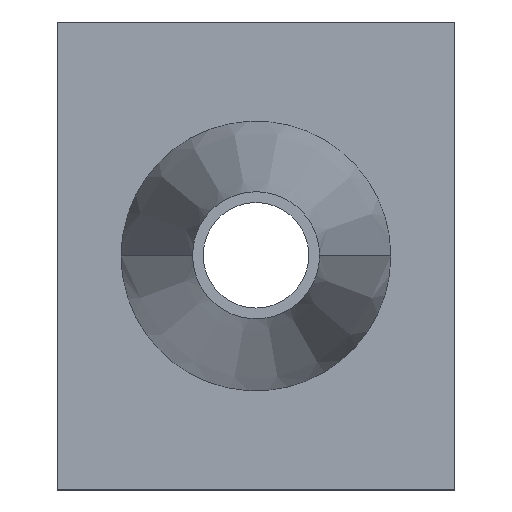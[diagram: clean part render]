
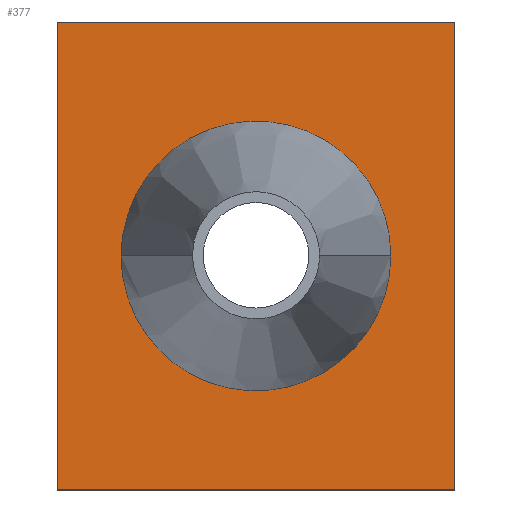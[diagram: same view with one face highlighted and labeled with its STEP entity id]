
A CAD part, top view. The second image highlights one B-rep face of the part: STEP entity #377.
In plain terms, the highlighted planar face has unit normal (0, 0, 1).
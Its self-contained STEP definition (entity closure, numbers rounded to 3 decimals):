
#167=CARTESIAN_POINT('Vertex',(0.,133.,3.)) ;
#174=CARTESIAN_POINT('Vertex',(0.,0.,3.)) ;
#177=CARTESIAN_POINT('Line Origine',(0.,66.5,3.)) ;
#198=CARTESIAN_POINT('Vertex',(113.,133.,3.)) ;
#201=CARTESIAN_POINT('Line Origine',(56.5,133.,3.)) ;
#222=CARTESIAN_POINT('Vertex',(113.,0.,3.)) ;
#225=CARTESIAN_POINT('Line Origine',(113.,66.5,3.)) ;
#242=CARTESIAN_POINT('Line Origine',(56.5,0.,3.)) ;
#324=CARTESIAN_POINT('Axis2P3D Location',(0.,0.,3.)) ;
#336=CARTESIAN_POINT('Control Point',(94.824,66.5,3.)) ;
#337=CARTESIAN_POINT('Control Point',(94.824,72.581,3.)) ;
#338=CARTESIAN_POINT('Control Point',(93.618,78.661,3.)) ;
#339=CARTESIAN_POINT('Control Point',(91.204,84.424,3.)) ;
#340=CARTESIAN_POINT('Control Point',(84.228,94.674,3.)) ;
#341=CARTESIAN_POINT('Control Point',(73.868,101.486,3.)) ;
#342=CARTESIAN_POINT('Control Point',(68.067,103.808,3.)) ;
#343=CARTESIAN_POINT('Control Point',(55.866,106.025,3.)) ;
#344=CARTESIAN_POINT('Control Point',(43.744,103.418,3.)) ;
#345=CARTESIAN_POINT('Control Point',(38.02,100.911,3.)) ;
#346=CARTESIAN_POINT('Control Point',(28.088,93.915,3.)) ;
#347=CARTESIAN_POINT('Control Point',(21.509,83.724,3.)) ;
#348=CARTESIAN_POINT('Control Point',(19.287,78.17,3.)) ;
#349=CARTESIAN_POINT('Control Point',(18.176,72.335,3.)) ;
#350=CARTESIAN_POINT('Control Point',(18.176,66.5,3.)) ;
#351=CARTESIAN_POINT('Vertex',(94.824,66.5,3.)) ;
#353=CARTESIAN_POINT('Vertex',(18.176,66.5,3.)) ;
#357=CARTESIAN_POINT('Control Point',(94.824,66.5,3.)) ;
#358=CARTESIAN_POINT('Control Point',(94.824,60.419,3.)) ;
#359=CARTESIAN_POINT('Control Point',(93.618,54.339,3.)) ;
#360=CARTESIAN_POINT('Control Point',(91.204,48.576,3.)) ;
#361=CARTESIAN_POINT('Control Point',(84.228,38.326,3.)) ;
#362=CARTESIAN_POINT('Control Point',(73.868,31.514,3.)) ;
#363=CARTESIAN_POINT('Control Point',(68.067,29.192,3.)) ;
#364=CARTESIAN_POINT('Control Point',(55.866,26.975,3.)) ;
#365=CARTESIAN_POINT('Control Point',(43.744,29.582,3.)) ;
#366=CARTESIAN_POINT('Control Point',(38.02,32.089,3.)) ;
#367=CARTESIAN_POINT('Control Point',(28.088,39.085,3.)) ;
#368=CARTESIAN_POINT('Control Point',(21.509,49.276,3.)) ;
#369=CARTESIAN_POINT('Control Point',(19.287,54.83,3.)) ;
#370=CARTESIAN_POINT('Control Point',(18.176,60.665,3.)) ;
#371=CARTESIAN_POINT('Control Point',(18.176,66.5,3.)) ;
#178=DIRECTION('Vector Direction',(0.,1.,0.)) ;
#202=DIRECTION('Vector Direction',(-1.,0.,0.)) ;
#226=DIRECTION('Vector Direction',(0.,1.,0.)) ;
#243=DIRECTION('Vector Direction',(1.,0.,0.)) ;
#325=DIRECTION('Axis2P3D Direction',(0.,0.,1.)) ;
#326=DIRECTION('Axis2P3D XDirection',(1.,0.,0.)) ;
#327=AXIS2_PLACEMENT_3D('Plane Axis2P3D',#324,#325,#326) ;
#330=ORIENTED_EDGE('',*,*,#181,.F.) ;
#331=ORIENTED_EDGE('',*,*,#246,.T.) ;
#332=ORIENTED_EDGE('',*,*,#229,.T.) ;
#333=ORIENTED_EDGE('',*,*,#205,.T.) ;
#374=ORIENTED_EDGE('',*,*,#355,.F.) ;
#375=ORIENTED_EDGE('',*,*,#372,.T.) ;
#376=FACE_BOUND('',#373,.T.) ;
#179=VECTOR('Line Direction',#178,1.) ;
#203=VECTOR('Line Direction',#202,1.) ;
#227=VECTOR('Line Direction',#226,1.) ;
#244=VECTOR('Line Direction',#243,1.) ;
#377=ADVANCED_FACE('PartBody',(#334,#376),#328,.T.) ;
#335=B_SPLINE_CURVE_WITH_KNOTS('',5,(#336,#337,#338,#339,#340,#341,#342,#343,#344,#345,#346,#347,#348,#349,#350),.UNSPECIFIED.,.F.,.U.,(6,3,3,3,6),(0.,32.65,65.304,97.958,129.289),.UNSPECIFIED.) ;
#356=B_SPLINE_CURVE_WITH_KNOTS('',5,(#357,#358,#359,#360,#361,#362,#363,#364,#365,#366,#367,#368,#369,#370,#371),.UNSPECIFIED.,.F.,.U.,(6,3,3,3,6),(0.,32.65,65.304,97.958,129.289),.UNSPECIFIED.) ;
#181=EDGE_CURVE('',#175,#168,#180,.T.) ;
#205=EDGE_CURVE('',#199,#168,#204,.T.) ;
#229=EDGE_CURVE('',#223,#199,#228,.T.) ;
#246=EDGE_CURVE('',#175,#223,#245,.T.) ;
#355=EDGE_CURVE('',#352,#354,#335,.T.) ;
#372=EDGE_CURVE('',#352,#354,#356,.T.) ;
#329=EDGE_LOOP('',(#330,#331,#332,#333)) ;
#373=EDGE_LOOP('',(#374,#375)) ;
#334=FACE_OUTER_BOUND('',#329,.T.) ;
#180=LINE('Line',#177,#179) ;
#204=LINE('Line',#201,#203) ;
#228=LINE('Line',#225,#227) ;
#245=LINE('Line',#242,#244) ;
#328=PLANE('',#327) ;
#168=VERTEX_POINT('',#167) ;
#175=VERTEX_POINT('',#174) ;
#199=VERTEX_POINT('',#198) ;
#223=VERTEX_POINT('',#222) ;
#352=VERTEX_POINT('',#351) ;
#354=VERTEX_POINT('',#353) ;
